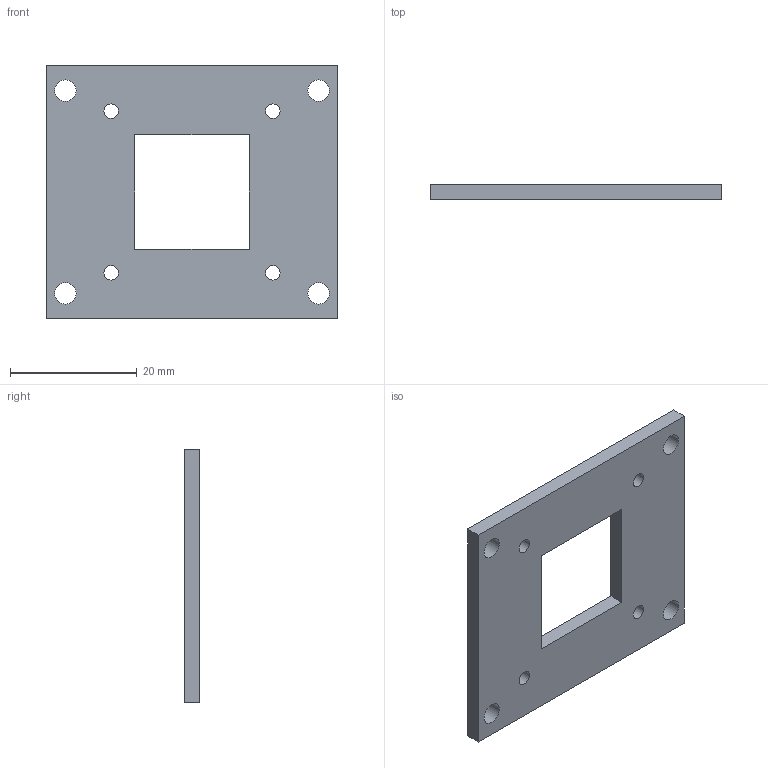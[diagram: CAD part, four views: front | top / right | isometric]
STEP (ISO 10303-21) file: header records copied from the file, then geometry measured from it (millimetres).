
FILE_DESCRIPTION(('Open CASCADE Model'),'2;1');
FILE_NAME('Open CASCADE Shape Model','2026-09-11T00:16:42',('Author'),( 'Open CASCADE'),'Open CASCADE STEP processor 7.9','Open CASCADE 7.9' ,'Unknown');
FILE_SCHEMA(('AUTOMOTIVE_DESIGN { 1 0 10303 214 1 1 1 1 }'));
Length unit declared in the file: millimetre
Products named in the file (1): Open CASCADE STEP translator 7.9 21
Bounding box: 46 x 2.4 x 40 mm (x, y, z)
Volume: 3511.4 mm3; surface area: 3683.6 mm2
Topology: 1 solids, 1 shells, 18 faces, 48 edges, 32 vertices
Faces by surface type: plane 10, cylinder 8
Full cylindrical faces by diameter (mm): 2.3 x4, 3.4 x4
Entity records: 1238 total; most frequent: DIRECTION 198, CARTESIAN_POINT 195, LINE 112, VECTOR 112, ORIENTED_EDGE 96, PCURVE 96, DEFINITIONAL_REPRESENTATION 96, EDGE_CURVE 48
